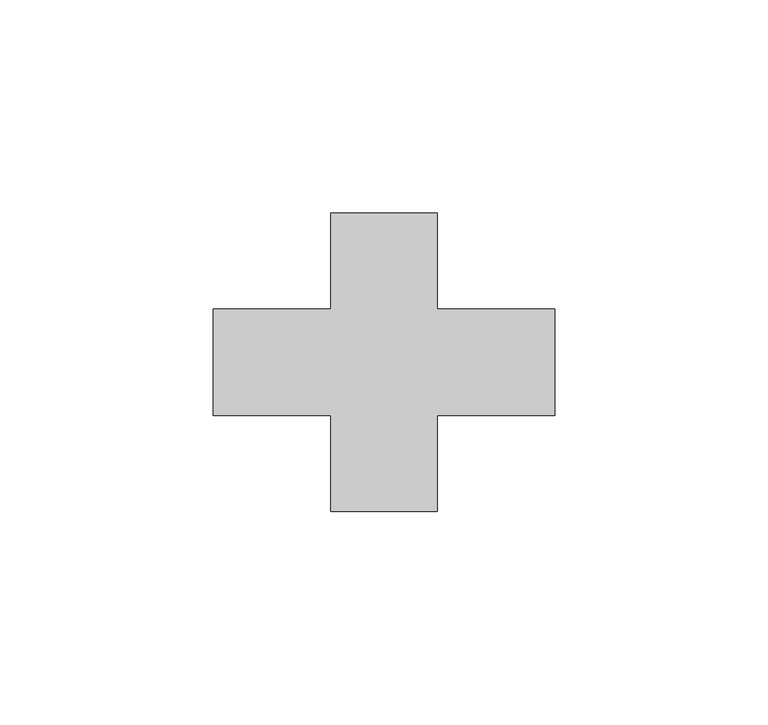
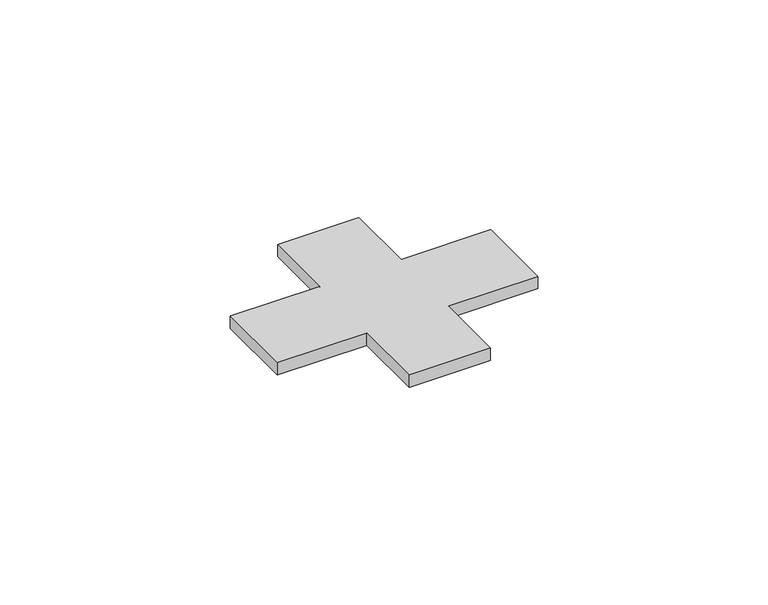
"""IFC4 building model written with IfcOpenShell, lengths in millimetres: duct fitting geometry, КНС_Крестовина_Полоса_Неспецифицируемое_DKC : NG3105CU_Медь_80х70 мм."""

from ifc_helpers import new_model, si_unit, frame, origin, place, context, project, spatial, polyline, outline, extrude, source, transform, mapped, element, save


def duct_fitting_43ad5567(model_context):
    return source(origin(), model_context, "Body", "SweptSolid", [
        extrude(outline(polyline([(3.75, -35.0), (-21.25, -35.0), (-21.25, -12.5), (-48.75, -12.5), (-48.75, 12.5), (-21.25, 12.5), (-21.25, 35.0), (3.75, 35.0), (3.75, 12.5), (31.25, 12.5), (31.25, -12.5), (3.75, -12.5), (3.75, -35.0)])), frame((0.0, 0.0, -2.0), z_axis=(0.0, 0.0, 1.0), x_axis=(1.0, 0.0, 0.0)), (0.0, 0.0, 1.0), 4.0),
    ])


if __name__ == "__main__":
    model = new_model("IFC4")
    model_context = context("Model", 3, world=origin())
    ifc_project = project(units=[si_unit("LENGTHUNIT", "METRE", prefix="MILLI")], contexts=[model_context])
    site = spatial("IfcSite", under=ifc_project)
    building = spatial("IfcBuilding", under=site)
    placement = place(None, origin())
    duct_fitting_shape = duct_fitting_43ad5567(model_context)
    element("IfcDuctFitting", 1, ObjectType="КНС_Крестовина_Полоса_Неспецифицируемое_DKC : NG3105CU_Медь_80х70 мм", at=placement, inside=building, context=model_context, shape_type="MappedRepresentation", body=[
        mapped(duct_fitting_shape, transform((0.0, 0.0, 0.0), x_axis=(1.0, 0.0, 0.0), y_axis=(0.0, 1.0, 0.0), z_axis=(0.0, 0.0, 1.0))),
    ])
    save(model, "model.ifc")
